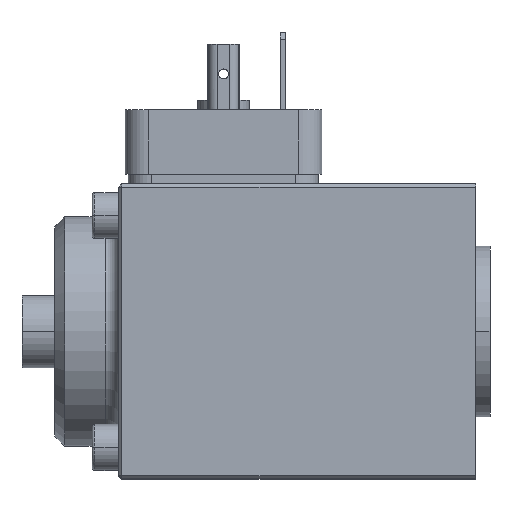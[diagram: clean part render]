
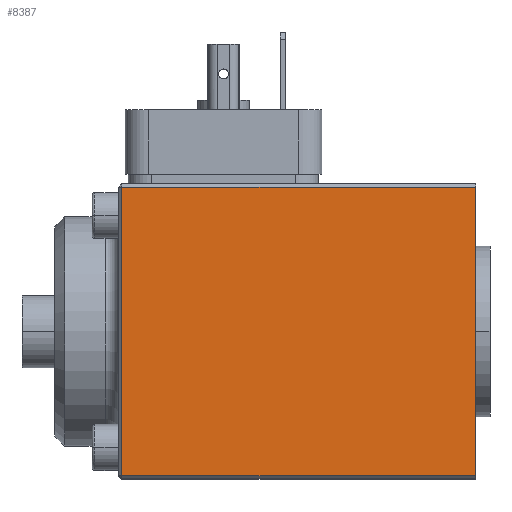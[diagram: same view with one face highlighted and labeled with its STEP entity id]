
A CAD part, top view. The second image highlights one B-rep face of the part: STEP entity #8387.
In plain terms, the highlighted planar face has unit normal (0, 0, 1).
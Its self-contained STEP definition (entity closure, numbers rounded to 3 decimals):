
#305 = AXIS2_PLACEMENT_3D ( 'NONE', #14245, #14246, #14247 ) ;
#307 = FACE_OUTER_BOUND ( 'NONE', #7768, .T. ) ;
#459 = VECTOR ( 'NONE', #14561, 1000. ) ;
#460 = VECTOR ( 'NONE', #14564, 1000. ) ;
#461 = VECTOR ( 'NONE', #14567, 1000. ) ;
#462 = VECTOR ( 'NONE', #14570, 1000. ) ;
#7768 = EDGE_LOOP ( 'NONE', ( #8940, #8942, #8941, #8943 ) ) ;
#8387 = ADVANCED_FACE ( 'NONE', ( #307 ), #14244, .F. ) ;
#8486 = EDGE_CURVE ( 'NONE', #8878, #8879, #14559, .T. ) ;
#8487 = EDGE_CURVE ( 'NONE', #8877, #8878, #14562, .T. ) ;
#8488 = EDGE_CURVE ( 'NONE', #8880, #8879, #14565, .T. ) ;
#8489 = EDGE_CURVE ( 'NONE', #8880, #8877, #14568, .T. ) ;
#8877 = VERTEX_POINT ( 'NONE', #14791 ) ;
#8878 = VERTEX_POINT ( 'NONE', #14792 ) ;
#8879 = VERTEX_POINT ( 'NONE', #14793 ) ;
#8880 = VERTEX_POINT ( 'NONE', #14794 ) ;
#8940 = ORIENTED_EDGE ( 'NONE', *, *, #8487, .T. ) ;
#8941 = ORIENTED_EDGE ( 'NONE', *, *, #8488, .F. ) ;
#8942 = ORIENTED_EDGE ( 'NONE', *, *, #8486, .T. ) ;
#8943 = ORIENTED_EDGE ( 'NONE', *, *, #8489, .T. ) ;
#14244 = PLANE ( 'NONE',  #305 ) ;
#14245 = CARTESIAN_POINT ( 'NONE',  ( 64.2, -22.5, 22.5 ) ) ;
#14246 = DIRECTION ( 'NONE',  ( 0., 0., -1. ) ) ;
#14247 = DIRECTION ( 'NONE',  ( -1., 0., 0. ) ) ;
#14559 = LINE ( 'NONE', #14560, #459 ) ;
#14560 = CARTESIAN_POINT ( 'NONE',  ( 64.2, -22., 22.5 ) ) ;
#14561 = DIRECTION ( 'NONE',  ( 1., 0., 0. ) ) ;
#14562 = LINE ( 'NONE', #14563, #460 ) ;
#14563 = CARTESIAN_POINT ( 'NONE',  ( 10.2, -22.5, 22.5 ) ) ;
#14564 = DIRECTION ( 'NONE',  ( 0., -1., 0. ) ) ;
#14565 = LINE ( 'NONE', #14566, #461 ) ;
#14566 = CARTESIAN_POINT ( 'NONE',  ( 64.2, -22.5, 22.5 ) ) ;
#14567 = DIRECTION ( 'NONE',  ( 0., -1., 0. ) ) ;
#14568 = LINE ( 'NONE', #14569, #462 ) ;
#14569 = CARTESIAN_POINT ( 'NONE',  ( 64.2, 22., 22.5 ) ) ;
#14570 = DIRECTION ( 'NONE',  ( -1., 0., 0. ) ) ;
#14791 = CARTESIAN_POINT ( 'NONE',  ( 10.2, 22., 22.5 ) ) ;
#14792 = CARTESIAN_POINT ( 'NONE',  ( 10.2, -22., 22.5 ) ) ;
#14793 = CARTESIAN_POINT ( 'NONE',  ( 64.2, -22., 22.5 ) ) ;
#14794 = CARTESIAN_POINT ( 'NONE',  ( 64.2, 22., 22.5 ) ) ;
